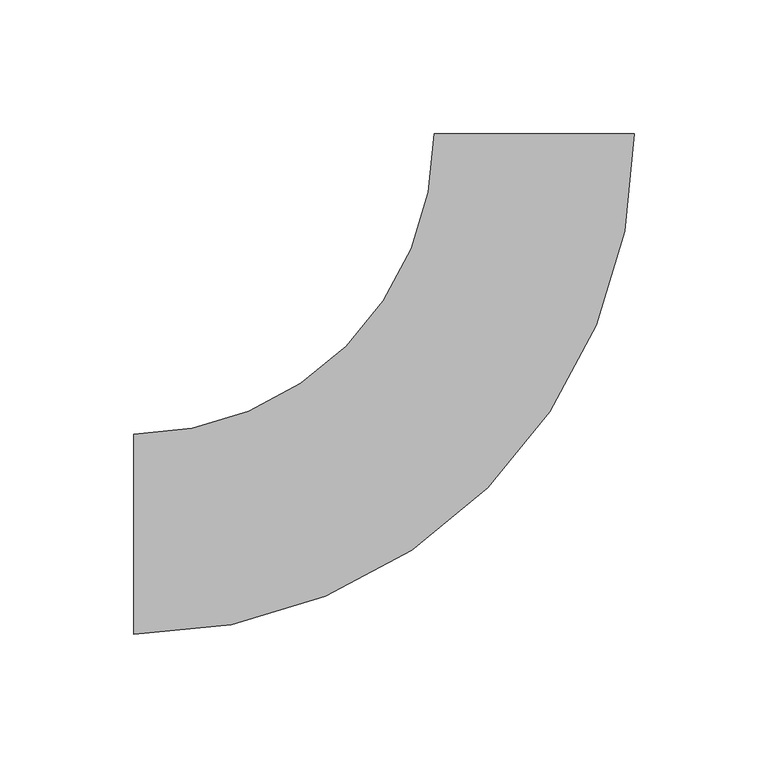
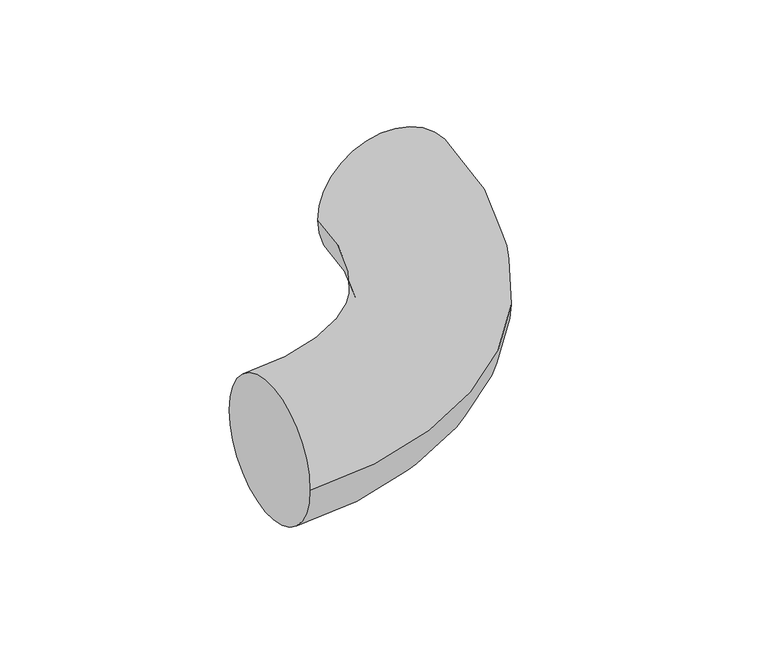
"""IFC4 building model written with IfcOpenShell, lengths in millimetres: duct segment geometry, NLRS_57_DUF_UN_Hybalans flexbend round_M&G : extract ø75 ø92 (red)."""

from ifc_helpers import new_model, si_unit, point, frame, origin, place, context, project, spatial, circle_curve, ellipse_curve, trimmed, source, transform, mapped, element, save
from ifc_brep_helpers import plane_surface, revolved_surface, advanced_brep


def duct_segment_4a810492(model_context):
    return source(origin(), model_context, "Body", "AdvancedBrep", [
        advanced_brep(
        [(-150.0, -37.5, 0.0), (-150.0, 37.5, 0.0), (37.5, 150.0, 0.0), (-37.5, 150.0, 0.0)],
        [
            (0, 1, circle_curve(frame((-150.0, 0.0, 0.0), z_axis=(-1.0, 0.0, 0.0), x_axis=(0.0, 1.0, 0.0)), 37.5)),
            (1, 0, circle_curve(frame((-150.0, 0.0, 0.0), z_axis=(-1.0, 0.0, 0.0), x_axis=(0.0, 1.0, 0.0)), 37.5)),
            (2, 3, circle_curve(frame((0.0, 150.0, 0.0), z_axis=(0.0, 1.0, 0.0), x_axis=(-1.0, 0.0, 0.0)), 37.5)),
            (3, 2, circle_curve(frame((0.0, 150.0, 0.0), z_axis=(0.0, 1.0, 0.0), x_axis=(-1.0, 0.0, 0.0)), 37.5)),
            (3, 1, circle_curve(frame((-150.0, 150.0, 0.0), z_axis=(0.0, 0.0, -1.0), x_axis=(0.0, -1.0, 0.0)), 112.5)),
            (0, 2, circle_curve(frame((-150.0, 150.0, 0.0), z_axis=(0.0, 0.0, 1.0), x_axis=(0.0, -1.0, 0.0)), 187.5)),
        ],
        [
            plane_surface(frame((-150.0, 0.0, 0.0), z_axis=(-1.0, 0.0, 0.0), x_axis=(0.0, 0.0, 1.0))),
            plane_surface(frame((0.0, 150.0, 0.0), z_axis=(0.0, 1.0, 0.0), x_axis=(0.0, 0.0, 1.0))),
            revolved_surface(trimmed(ellipse_curve(frame((-150.0, 0.0, 0.0), z_axis=(-1.0, 0.0, 0.0), x_axis=(0.0, 1.0, 0.0)), 37.5, 37.5), [point((-150.0, -37.5, 0.0))], [point((-150.0, 37.5, 0.0))], True, "CARTESIAN"), (-150.0, 150.0, 0.0), (0.0, 0.0, 1.0)),
            revolved_surface(trimmed(ellipse_curve(frame((-150.0, 0.0, 0.0), z_axis=(-1.0, 0.0, 0.0), x_axis=(0.0, 1.0, 0.0)), 37.5, 37.5), [point((-150.0, 37.5, 0.0))], [point((-150.0, -37.5, 0.0))], True, "CARTESIAN"), (-150.0, 150.0, 0.0), (0.0, 0.0, 1.0)),
        ],
        [
            (0, [[1, 2]]),
            (1, [[3, 4]]),
            (2, [[5, -1, 6, -4]]),
            (3, [[-6, -2, -5, -3]]),
        ],
    ),
    ])


if __name__ == "__main__":
    model = new_model("IFC4")
    model_context = context("Model", 3, world=origin())
    ifc_project = project(units=[si_unit("LENGTHUNIT", "METRE", prefix="MILLI")], contexts=[model_context])
    site = spatial("IfcSite", under=ifc_project)
    building = spatial("IfcBuilding", under=site)
    placement = place(None, origin())
    duct_segment_shape = duct_segment_4a810492(model_context)
    element("IfcDuctSegment", 1, ObjectType="NLRS_57_DUF_UN_Hybalans flexbend round_M&G : extract ø75 ø92 (red)", at=placement, inside=building, context=model_context, shape_type="MappedRepresentation", body=[
        mapped(duct_segment_shape, transform((0.0, 0.0, 0.0), x_axis=(1.0, 0.0, 0.0), y_axis=(0.0, 1.0, 0.0), z_axis=(0.0, 0.0, 1.0))),
    ])
    save(model, "model.ifc")
